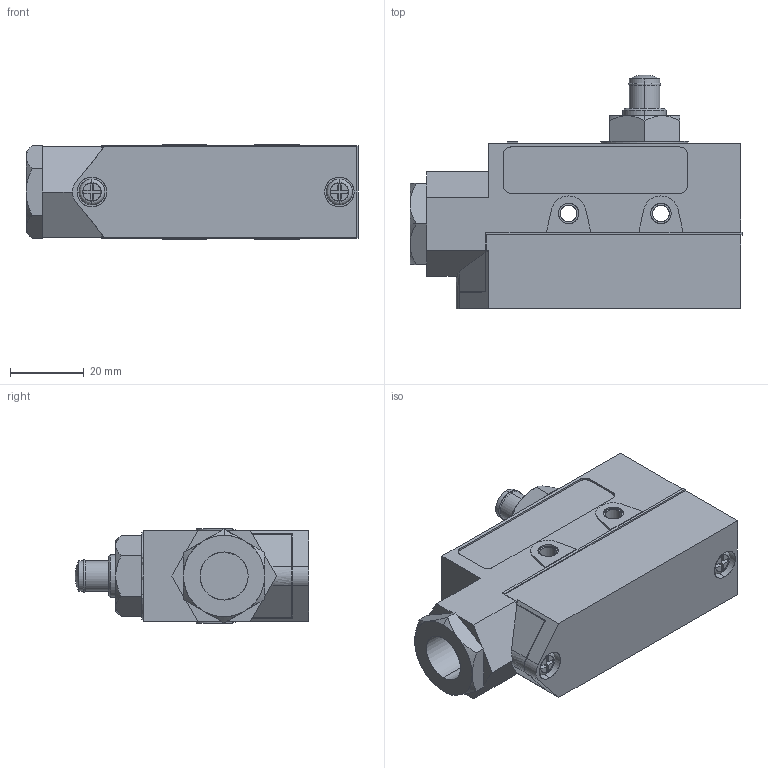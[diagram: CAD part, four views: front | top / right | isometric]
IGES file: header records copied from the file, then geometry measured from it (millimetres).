
Start section: SolidWorks IGES file using analytic representation for surfaces
Global section: file name: D:\X - Arquivos\PROEX\Empresas\P11 - METALTEX\01 - Produtos\IGES\6ª remessa\5ª etapa\TZ-6001.IGS; native system: SolidWorks 2012; preprocessor: SolidWorks 2012; author: Usuario; date: 190327.095744; units: millimetre
Bounding box: 89.9 x 63.29 x 25.5 mm (x, y, z)
Surface area: 17327.4 mm2 (no closed solid volume)
Topology: 0 solids, 0 shells, 286 faces, 2777 edges, 2777 vertices
Faces by surface type: bspline 227, revolution 59
